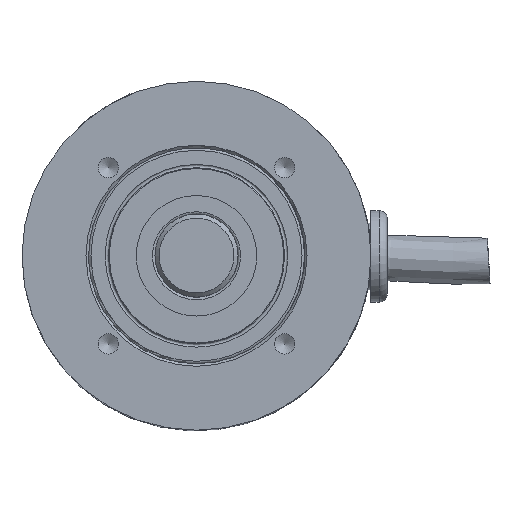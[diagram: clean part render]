
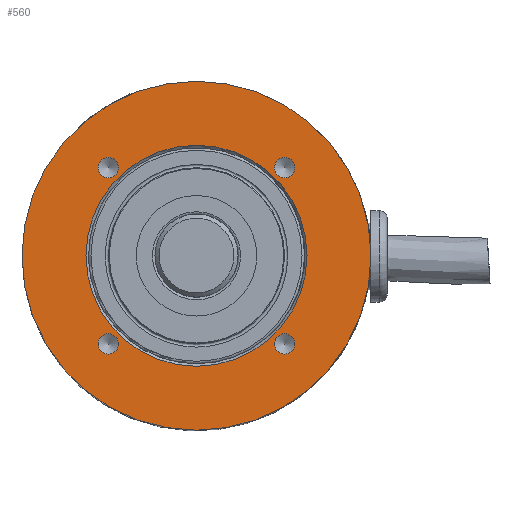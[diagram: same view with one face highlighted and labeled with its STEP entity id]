
A CAD part, top view. The second image highlights one B-rep face of the part: STEP entity #560.
In plain terms, the highlighted planar face has unit normal (0, 0, 1).
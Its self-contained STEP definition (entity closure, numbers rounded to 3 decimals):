
#560 = ADVANCED_FACE( '', ( #1199, #1200, #1201, #1202, #1203, #1204 ), #1205, .T. );
#1199 = FACE_OUTER_BOUND( '', #2620, .T. );
#1200 = FACE_BOUND( '', #2621, .T. );
#1201 = FACE_BOUND( '', #2622, .T. );
#1202 = FACE_BOUND( '', #2623, .T. );
#1203 = FACE_BOUND( '', #2624, .T. );
#1204 = FACE_BOUND( '', #2625, .T. );
#1205 = PLANE( '', #2626 );
#2620 = EDGE_LOOP( '', ( #3844 ) );
#2621 = EDGE_LOOP( '', ( #3845 ) );
#2622 = EDGE_LOOP( '', ( #3846 ) );
#2623 = EDGE_LOOP( '', ( #3847 ) );
#2624 = EDGE_LOOP( '', ( #3848 ) );
#2625 = EDGE_LOOP( '', ( #3849 ) );
#2626 = AXIS2_PLACEMENT_3D( '', #3850, #3851, #3852 );
#3844 = ORIENTED_EDGE( '', *, *, #4271, .F. );
#3845 = ORIENTED_EDGE( '', *, *, #4207, .T. );
#3846 = ORIENTED_EDGE( '', *, *, #3943, .T. );
#3847 = ORIENTED_EDGE( '', *, *, #4179, .T. );
#3848 = ORIENTED_EDGE( '', *, *, #4062, .T. );
#3849 = ORIENTED_EDGE( '', *, *, #3982, .T. );
#3850 = CARTESIAN_POINT( '', ( -21., 0., 24. ) );
#3851 = DIRECTION( '', ( 0., 0., 1. ) );
#3852 = DIRECTION( '', ( 1., 0., 0. ) );
#3943 = EDGE_CURVE( '', #4466, #4466, #4467, .T. );
#3982 = EDGE_CURVE( '', #4529, #4529, #4530, .T. );
#4062 = EDGE_CURVE( '', #4645, #4645, #4646, .T. );
#4179 = EDGE_CURVE( '', #4807, #4807, #4808, .T. );
#4207 = EDGE_CURVE( '', #4840, #4840, #4841, .T. );
#4271 = EDGE_CURVE( '', #4926, #4926, #4927, .T. );
#4466 = VERTEX_POINT( '', #5243 );
#4467 = CIRCLE( '', #5244, 1.23 );
#4529 = VERTEX_POINT( '', #5569 );
#4530 = CIRCLE( '', #5570, 13.3 );
#4645 = VERTEX_POINT( '', #5934 );
#4646 = CIRCLE( '', #5935, 1.23 );
#4807 = VERTEX_POINT( '', #6316 );
#4808 = CIRCLE( '', #6317, 1.23 );
#4840 = VERTEX_POINT( '', #6358 );
#4841 = CIRCLE( '', #6359, 1.23 );
#4926 = VERTEX_POINT( '', #6705 );
#4927 = CIRCLE( '', #6706, 21. );
#5243 = CARTESIAN_POINT( '', ( -9.377, -10.607, 24. ) );
#5244 = AXIS2_PLACEMENT_3D( '', #6870, #6871, #6872 );
#5569 = CARTESIAN_POINT( '', ( -13.3, 0., 24. ) );
#5570 = AXIS2_PLACEMENT_3D( '', #6914, #6915, #6916 );
#5934 = CARTESIAN_POINT( '', ( 11.836, 10.607, 24. ) );
#5935 = AXIS2_PLACEMENT_3D( '', #6999, #7000, #7001 );
#6316 = CARTESIAN_POINT( '', ( 11.836, -10.607, 24. ) );
#6317 = AXIS2_PLACEMENT_3D( '', #7124, #7125, #7126 );
#6358 = CARTESIAN_POINT( '', ( -9.377, 10.607, 24. ) );
#6359 = AXIS2_PLACEMENT_3D( '', #7148, #7149, #7150 );
#6705 = CARTESIAN_POINT( '', ( -21., 0., 24. ) );
#6706 = AXIS2_PLACEMENT_3D( '', #7197, #7198, #7199 );
#6870 = CARTESIAN_POINT( '', ( -10.607, -10.607, 24. ) );
#6871 = DIRECTION( '', ( 0., 0., -1. ) );
#6872 = DIRECTION( '', ( 1., 0., 0. ) );
#6914 = CARTESIAN_POINT( '', ( 0., 0., 24. ) );
#6915 = DIRECTION( '', ( 0., 0., -1. ) );
#6916 = DIRECTION( '', ( -1., 0., 0. ) );
#6999 = CARTESIAN_POINT( '', ( 10.607, 10.607, 24. ) );
#7000 = DIRECTION( '', ( 0., 0., -1. ) );
#7001 = DIRECTION( '', ( 1., 0., 0. ) );
#7124 = CARTESIAN_POINT( '', ( 10.607, -10.607, 24. ) );
#7125 = DIRECTION( '', ( 0., 0., -1. ) );
#7126 = DIRECTION( '', ( 1., 0., 0. ) );
#7148 = CARTESIAN_POINT( '', ( -10.607, 10.607, 24. ) );
#7149 = DIRECTION( '', ( 0., 0., -1. ) );
#7150 = DIRECTION( '', ( 1., 0., 0. ) );
#7197 = CARTESIAN_POINT( '', ( 0., 0., 24. ) );
#7198 = DIRECTION( '', ( 0., 0., -1. ) );
#7199 = DIRECTION( '', ( -1., 0., 0. ) );
